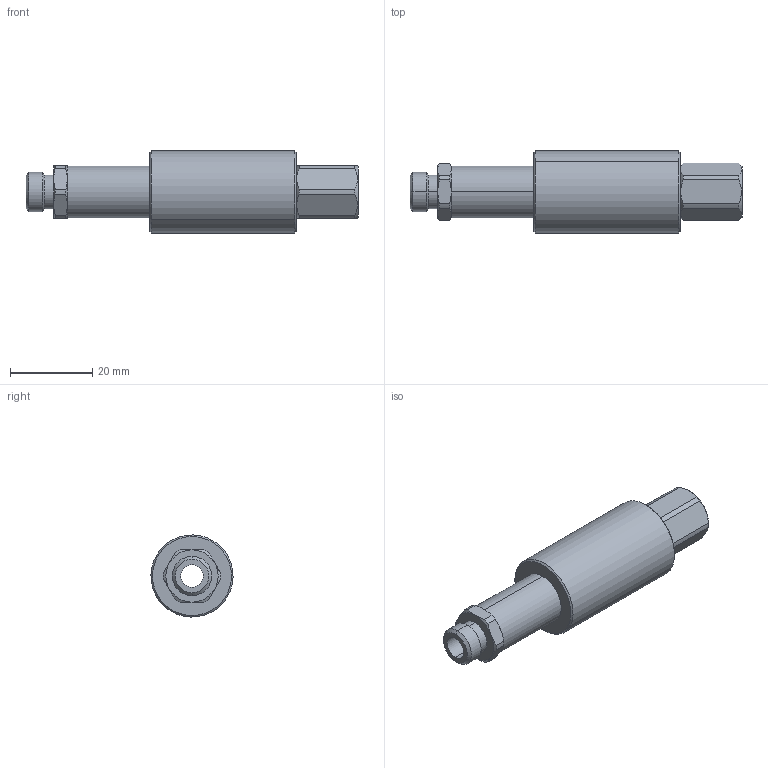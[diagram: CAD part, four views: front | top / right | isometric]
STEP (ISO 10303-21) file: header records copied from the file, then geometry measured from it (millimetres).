
FILE_DESCRIPTION (( 'STEP AP203' ), '1' );
FILE_NAME ('LC18-20-PUBLIC.STEP', '2011-06-27T18:54:23', ( '' ), ( '' ), 'SwSTEP 2.0', 'SolidWorks 2011', '' );
FILE_SCHEMA (( 'CONFIG_CONTROL_DESIGN' ));
Length unit declared in the file: inch
Products named in the file (1): LC18-20-PUBLIC
Bounding box: 80.52 x 19.92 x 19.92 mm (x, y, z)
Volume: 14080.5 mm3; surface area: 6101.9 mm2
Topology: 1 solids, 1 shells, 64 faces, 154 edges, 96 vertices
Faces by surface type: cylinder 24, cone 22, plane 18
Entity records: 2119 total; most frequent: CARTESIAN_POINT 559, DIRECTION 314, ORIENTED_EDGE 308, EDGE_CURVE 154, AXIS2_PLACEMENT_3D 131, VERTEX_POINT 96, EDGE_LOOP 70, CIRCLE 66
